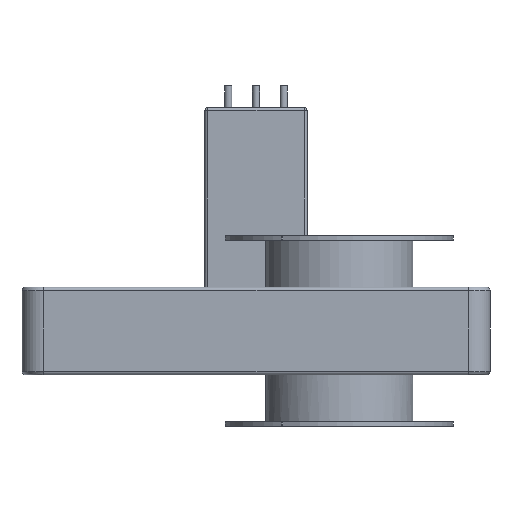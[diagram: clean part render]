
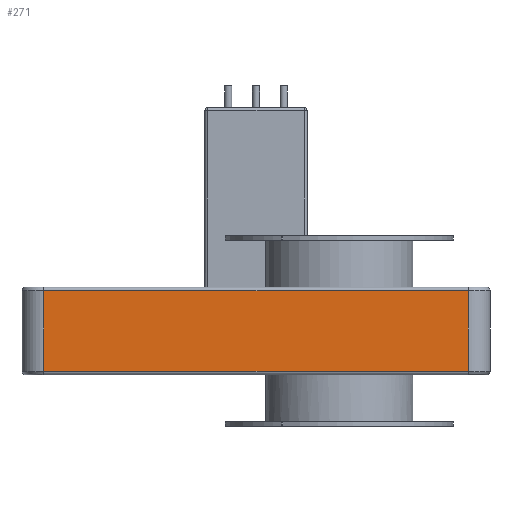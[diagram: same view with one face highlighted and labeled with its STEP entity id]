
A CAD part, front view. The second image highlights one B-rep face of the part: STEP entity #271.
In plain terms, the highlighted free-form (B-spline) face has degree [1, 1] with [2, 2] control points.
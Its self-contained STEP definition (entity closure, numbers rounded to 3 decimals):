
#216=CARTESIAN_POINT('',(-202.408,-81.555,-27.5));
#217=VERTEX_POINT('',#216);
#226=CARTESIAN_POINT('',(-202.408,-81.555,27.5));
#227=VERTEX_POINT('',#226);
#228=CARTESIAN_POINT('',(-202.408,-81.555,-27.5));
#229=CARTESIAN_POINT('',(-202.408,-81.555,27.5));
#230=B_SPLINE_CURVE_WITH_KNOTS('',1,(#228,#229),.POLYLINE_FORM.,.F.,.U.,(2,2),(0.042,0.958),.UNSPECIFIED.);
#231=EDGE_CURVE('',#217,#227,#230,.T.);
#244=CARTESIAN_POINT('',(-202.408,-81.555,-30.));
#245=CARTESIAN_POINT('',(-202.408,-81.555,30.));
#246=CARTESIAN_POINT('',(88.299,-81.555,-30.));
#247=CARTESIAN_POINT('',(88.299,-81.555,30.));
#248=B_SPLINE_SURFACE_WITH_KNOTS('',1,1,((#244,#245),(#246,#247)),.PLANE_SURF.,.F.,.F.,.U.,(2,2),(2,2),(0.,1.),(0.,1.),.UNSPECIFIED.);
#249=ORIENTED_EDGE('',*,*,#231,.F.);
#250=CARTESIAN_POINT('',(88.299,-81.555,-27.5));
#251=VERTEX_POINT('',#250);
#252=CARTESIAN_POINT('',(-202.408,-81.555,-27.5));
#253=CARTESIAN_POINT('',(88.299,-81.555,-27.5));
#254=B_SPLINE_CURVE_WITH_KNOTS('',1,(#252,#253),.POLYLINE_FORM.,.F.,.U.,(2,2),(0.,1.),.UNSPECIFIED.);
#255=EDGE_CURVE('',#217,#251,#254,.T.);
#256=ORIENTED_EDGE('',*,*,#255,.T.);
#257=CARTESIAN_POINT('',(88.299,-81.555,27.5));
#258=VERTEX_POINT('',#257);
#259=CARTESIAN_POINT('',(88.299,-81.555,-27.5));
#260=CARTESIAN_POINT('',(88.299,-81.555,27.5));
#261=B_SPLINE_CURVE_WITH_KNOTS('',1,(#259,#260),.POLYLINE_FORM.,.F.,.U.,(2,2),(0.042,0.958),.UNSPECIFIED.);
#262=EDGE_CURVE('',#251,#258,#261,.T.);
#263=ORIENTED_EDGE('',*,*,#262,.T.);
#264=CARTESIAN_POINT('',(-202.408,-81.555,27.5));
#265=CARTESIAN_POINT('',(88.299,-81.555,27.5));
#266=B_SPLINE_CURVE_WITH_KNOTS('',1,(#264,#265),.POLYLINE_FORM.,.F.,.U.,(2,2),(0.,1.),.UNSPECIFIED.);
#267=EDGE_CURVE('',#227,#258,#266,.T.);
#268=ORIENTED_EDGE('',*,*,#267,.F.);
#269=EDGE_LOOP('',(#249,#256,#263,#268));
#270=FACE_OUTER_BOUND('',#269,.T.);
#271=ADVANCED_FACE('',(#270),#248,.T.);
